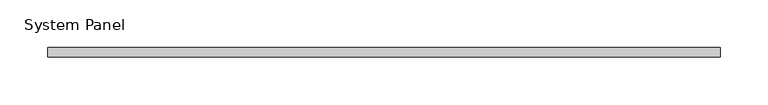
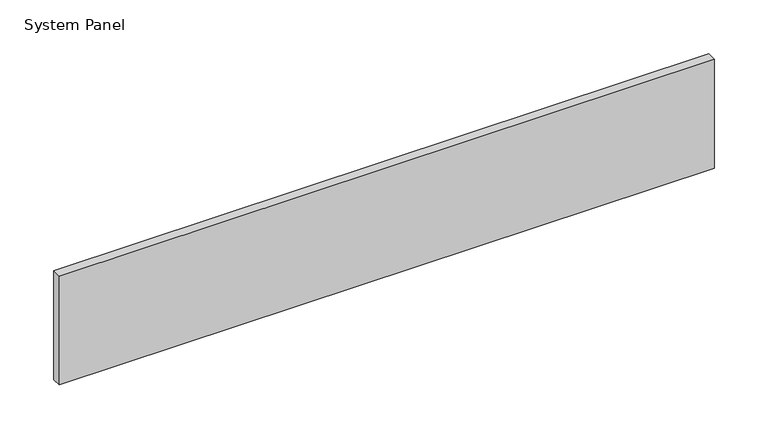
"""IFC4 building model written with IfcOpenShell, lengths in millimetres: plate geometry, System Panel : VACÍO."""

from ifc_helpers import new_model, si_unit, origin, origin_with_axes, place, context, project, spatial, polyline, outline, extrude, source, transform, mapped, element, save


def system_panel_92242c99(model_context):
    return source(origin(), model_context, "Body", "SweptSolid", [
        extrude(outline(polyline([(351.3774187, -5.0), (-351.3774187, -5.0), (-351.3774187, 5.0), (351.3774187, 5.0), (351.3774187, -5.0)])), origin_with_axes(), (0.0, 0.0, 1.0), 123.5),
    ])


if __name__ == "__main__":
    model = new_model("IFC4")
    model_context = context("Model", 3, world=origin())
    ifc_project = project(units=[si_unit("LENGTHUNIT", "METRE", prefix="MILLI")], contexts=[model_context])
    site = spatial("IfcSite", under=ifc_project)
    building = spatial("IfcBuilding", under=site)
    placement = place(None, origin())
    system_panel_shape = system_panel_92242c99(model_context)
    element("IfcPlate", 1, ObjectType="System Panel : VACÍO", at=placement, inside=building, context=model_context, shape_type="MappedRepresentation", body=[
        mapped(system_panel_shape, transform((0.0, 0.0, 0.0), x_axis=(1.0, 0.0, 0.0), y_axis=(0.0, 1.0, 0.0), z_axis=(0.0, 0.0, 1.0))),
    ])
    save(model, "model.ifc")
